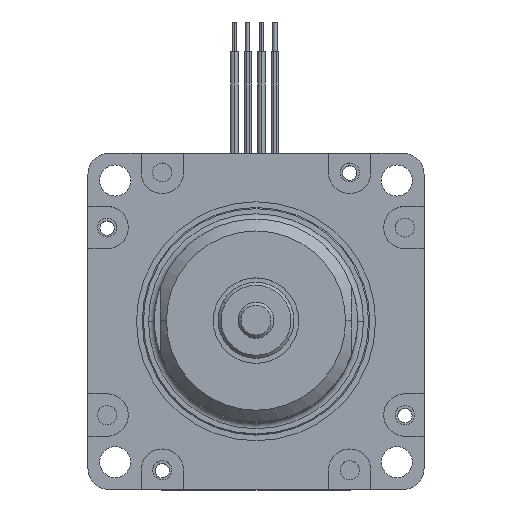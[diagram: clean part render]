
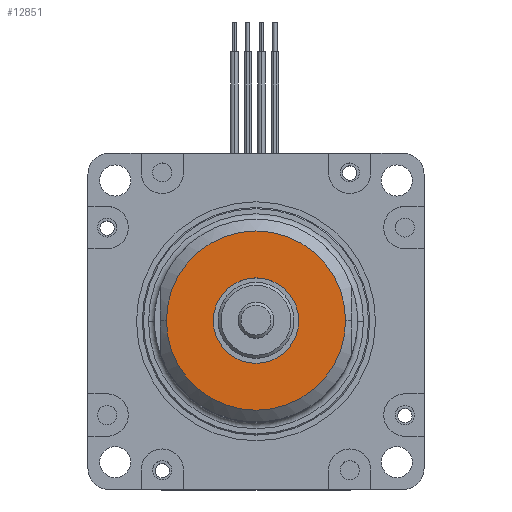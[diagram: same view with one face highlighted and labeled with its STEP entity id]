
A CAD part, top view. The second image highlights one B-rep face of the part: STEP entity #12851.
In plain terms, the highlighted planar face has unit normal (0, 0, 1).
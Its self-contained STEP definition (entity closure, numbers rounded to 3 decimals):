
#832 = CARTESIAN_POINT ( 'NONE',  ( 71.23, 0.03, 131.5 ) ) ;
#1758 = PLANE ( 'NONE',  #9399 ) ;
#2538 = AXIS2_PLACEMENT_3D ( 'NONE', #9590, #9762, #9706 ) ;
#2563 = CARTESIAN_POINT ( 'NONE',  ( 56.23, 0.03, 131.5 ) ) ;
#2573 = DIRECTION ( 'NONE',  ( 0., 0., -1. ) ) ;
#2616 = DIRECTION ( 'NONE',  ( -1., 0., 0. ) ) ;
#5438 = ORIENTED_EDGE ( 'NONE', *, *, #14120, .T. ) ;
#5448 = ORIENTED_EDGE ( 'NONE', *, *, #14132, .T. ) ;
#5456 = ORIENTED_EDGE ( 'NONE', *, *, #14126, .T. ) ;
#5466 = ORIENTED_EDGE ( 'NONE', *, *, #14133, .T. ) ;
#5685 = CARTESIAN_POINT ( 'NONE',  ( 41.23, 0.03, 131.5 ) ) ;
#5859 = CARTESIAN_POINT ( 'NONE',  ( 49.08, 0.03, 131.5 ) ) ;
#5884 = CARTESIAN_POINT ( 'NONE',  ( 63.38, 0.03, 131.5 ) ) ;
#7623 = AXIS2_PLACEMENT_3D ( 'NONE', #9793, #9512, #9535 ) ;
#7627 = AXIS2_PLACEMENT_3D ( 'NONE', #9587, #9620, #9859 ) ;
#7629 = AXIS2_PLACEMENT_3D ( 'NONE', #9803, #9990, #9952 ) ;
#7972 = EDGE_LOOP ( 'NONE', ( #5456, #5448 ) ) ;
#8458 = VERTEX_POINT ( 'NONE', #5859 ) ;
#8513 = VERTEX_POINT ( 'NONE', #5685 ) ;
#8606 = VERTEX_POINT ( 'NONE', #5884 ) ;
#8742 = EDGE_LOOP ( 'NONE', ( #5466, #5438 ) ) ;
#8861 = VERTEX_POINT ( 'NONE', #832 ) ;
#9398 = FACE_BOUND ( 'NONE', #7972, .T. ) ;
#9399 = AXIS2_PLACEMENT_3D ( 'NONE', #2563, #2573, #2616 ) ;
#9408 = FACE_OUTER_BOUND ( 'NONE', #8742, .T. ) ;
#9512 = DIRECTION ( 'NONE',  ( 0., 0., -1. ) ) ;
#9535 = DIRECTION ( 'NONE',  ( -1., 0., 0. ) ) ;
#9587 = CARTESIAN_POINT ( 'NONE',  ( 56.23, 0.03, 131.5 ) ) ;
#9590 = CARTESIAN_POINT ( 'NONE',  ( 56.23, 0.03, 131.5 ) ) ;
#9620 = DIRECTION ( 'NONE',  ( 0., 0., 1. ) ) ;
#9706 = DIRECTION ( 'NONE',  ( -1., 0., 0. ) ) ;
#9762 = DIRECTION ( 'NONE',  ( 0., 0., 1. ) ) ;
#9793 = CARTESIAN_POINT ( 'NONE',  ( 56.23, 0.03, 131.5 ) ) ;
#9803 = CARTESIAN_POINT ( 'NONE',  ( 56.23, 0.03, 131.5 ) ) ;
#9859 = DIRECTION ( 'NONE',  ( -1., 0., 0. ) ) ;
#9952 = DIRECTION ( 'NONE',  ( -1., 0., 0. ) ) ;
#9990 = DIRECTION ( 'NONE',  ( 0., 0., -1. ) ) ;
#12214 = CIRCLE ( 'NONE', #7623, 7.15 ) ;
#12238 = CIRCLE ( 'NONE', #7627, 15. ) ;
#12265 = CIRCLE ( 'NONE', #2538, 15. ) ;
#12301 = CIRCLE ( 'NONE', #7629, 7.15 ) ;
#12851 = ADVANCED_FACE ( 'NONE', ( #9408, #9398 ), #1758, .F. ) ;
#14120 = EDGE_CURVE ( 'NONE', #8861, #8513, #12238, .T. ) ;
#14126 = EDGE_CURVE ( 'NONE', #8606, #8458, #12214, .T. ) ;
#14132 = EDGE_CURVE ( 'NONE', #8458, #8606, #12301, .T. ) ;
#14133 = EDGE_CURVE ( 'NONE', #8513, #8861, #12265, .T. ) ;
